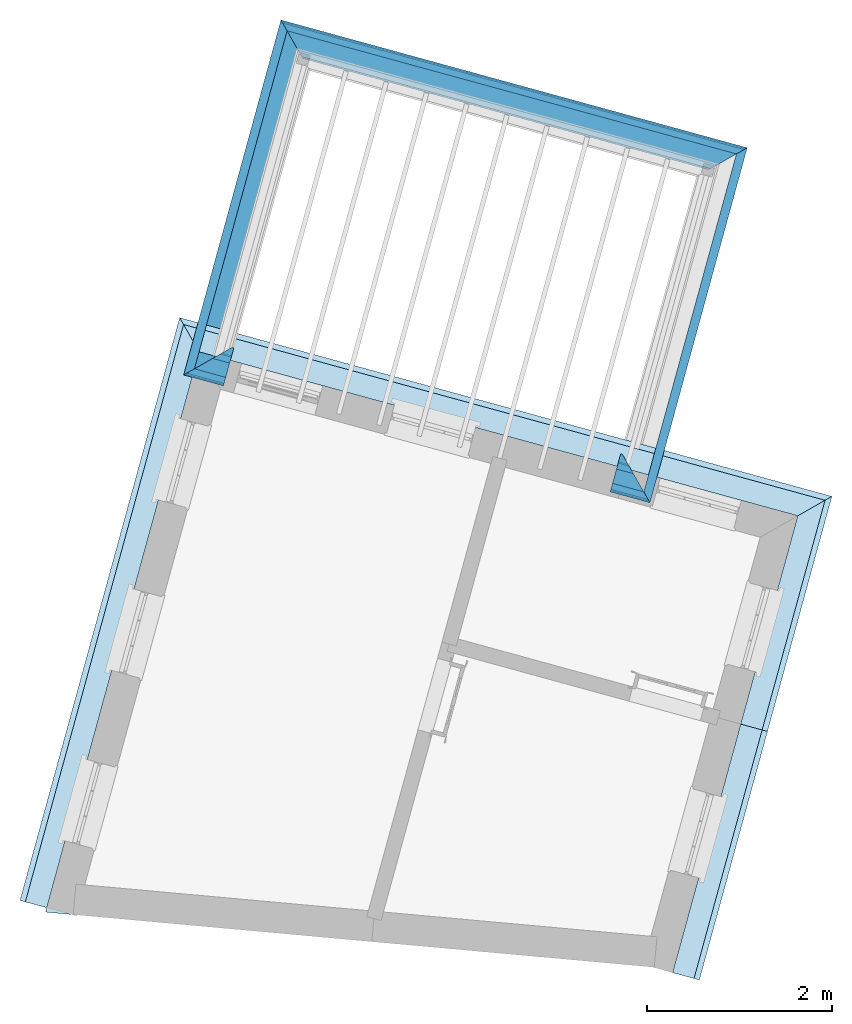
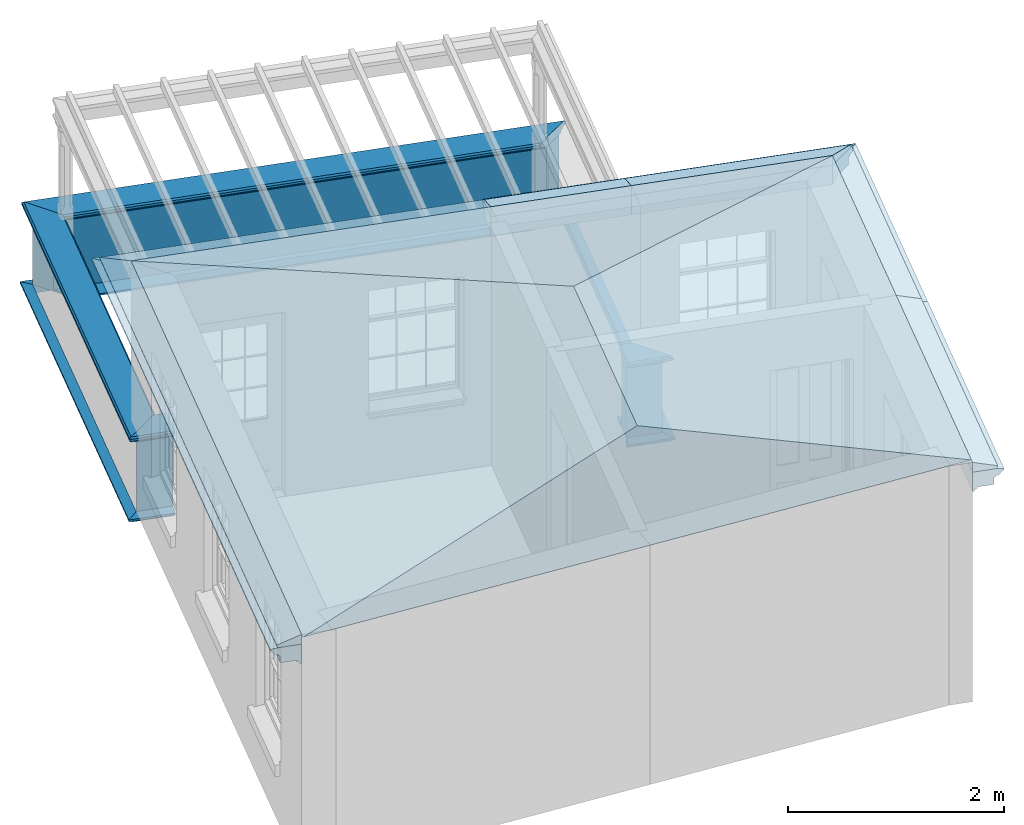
# One storey, part 4 of 4: 13 roofs, 12 walls.
"""IFC4 building model written with IfcOpenShell, lengths in metres."""

from ifc_helpers import new_model, si_unit, frame, origin, origin_with_axes, place, context, subcontext, project, spatial, polyline, outline, extrude, clip, halfspace, faceted_brep, material_profile, profile_set, profile_usage, type_object, element, save


model = new_model("IFC4")

# Units and contexts
model_context = context("Model", 3, world=origin_with_axes())
body_context = subcontext(model_context, "Body", "Model", "MODEL_VIEW")
ifc_project = project(units=[si_unit("PLANEANGLEUNIT", "RADIAN"), si_unit("MASSUNIT", "GRAM", prefix="KILO"), si_unit("FORCEUNIT", "NEWTON", prefix="KILO"), si_unit("LENGTHUNIT", "METRE"), si_unit("AREAUNIT", "SQUARE_METRE"), si_unit("VOLUMEUNIT", "CUBIC_METRE")], contexts=[model_context, model_context])

# Sites, building, storey
site_1_placement = place(None, origin_with_axes())
site_1 = spatial("IfcSite", under=ifc_project, at=site_1_placement, Name="Tamar")
site_2_placement = place(site_1_placement, origin_with_axes())
site_2 = spatial("IfcSite", under=site_1, at=site_2_placement, Name="Site plot-28", CompositionType="ELEMENT")
building_placement = place(None, origin_with_axes())
building = spatial("IfcBuilding", under=site_2, at=building_placement, Name="Building plot-28", CompositionType="ELEMENT")
storey_placement = place(None, frame((0.0, 0.0, 29.85), z_axis=(0.0, 0.0, 1.0), x_axis=(1.0, 0.0, 0.0)))
storey = spatial("IfcBuildingStorey", under=building, at=storey_placement, Name="plot-28 2", CompositionType="ELEMENT", Elevation=29.85)

# Walls
ifc_material_profile_1 = material_profile(None, outline(polyline([(0.25, 0.0), (0.25, 0.795), (0.09, 0.795), (0.09, 0.02), (-0.08, 0.02), (-0.08, 0.0), (0.25, 0.0)])))
ifc_profile_set_1 = profile_set([ifc_material_profile_1])
ifc_profile_usage_1 = profile_usage(ifc_profile_set_1)
wall_type_1 = type_object("IfcWallType", Name="parapet_0", PredefinedType="PARAPET", material=ifc_profile_set_1)
wall_1_placement = place(storey_placement, frame((266.014944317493, 264.03545285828, 0.0), z_axis=(-0.964452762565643, 0.264255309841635, 0.0), x_axis=(-0.264255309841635, -0.964452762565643, 0.0)))
element("IfcWall", 1, at=wall_1_placement, inside=storey, type_object=wall_type_1, material=ifc_profile_usage_1, Name="parapet_0", context=body_context, shape_type="Clipping", body=[
    clip(clip(extrude(outline(polyline([(0.25, 0.0), (0.25, 0.795), (0.09, 0.795), (0.09, 0.02), (-0.08, 0.02), (-0.08, 0.0), (0.25, 0.0)])), origin_with_axes(), (0.0, 0.0, 1.0), 2.10000000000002), halfspace(frame((0.0, 0.0, 1.10000000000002), z_axis=(5.71192738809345e-15, 0.0, -1.0), x_axis=(0.0, 1.0, 0.0)), True)), halfspace(frame((0.0, 0.0, 1.0), z_axis=(-0.707106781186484, 0.0, -0.707106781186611), x_axis=(0.0, 1.0, 0.0)), False)),
])
ifc_profile_usage_2 = profile_usage(ifc_profile_set_1)
wall_2_placement = place(storey_placement, frame((260.584933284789, 268.927528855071, 0.0), z_axis=(0.964452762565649, -0.264255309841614, 0.0), x_axis=(0.264255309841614, 0.964452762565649, 0.0)))
element("IfcWall", 2, at=wall_2_placement, inside=storey, type_object=wall_type_1, material=ifc_profile_usage_2, Name="parapet_0", context=body_context, shape_type="Clipping", body=[
    clip(clip(extrude(outline(polyline([(0.25, 0.0), (0.25, 0.795), (0.09, 0.795), (0.09, 0.02), (-0.08, 0.02), (-0.08, 0.0), (0.25, 0.0)])), origin_with_axes(), (0.0, 0.0, 1.0), 6.5297461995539), halfspace(frame((0.0, 0.0, 5.5297461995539), z_axis=(0.707106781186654, 0.0, -0.707106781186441), x_axis=(0.0, 1.0, 0.0)), True)), halfspace(frame((0.0, 0.0, 1.0), z_axis=(-0.707106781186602, 0.0, -0.707106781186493), x_axis=(0.0, 1.0, 0.0)), False)),
])
ifc_profile_usage_3 = profile_usage(ifc_profile_set_1)
wall_3_placement = place(storey_placement, frame((261.742663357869, 265.206036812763, 0.0), z_axis=(-0.964452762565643, 0.264255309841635, 0.0), x_axis=(-0.264255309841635, -0.964452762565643, 0.0)))
element("IfcWall", 3, at=wall_3_placement, inside=storey, type_object=wall_type_1, material=ifc_profile_usage_3, Name="parapet_0", context=body_context, shape_type="Clipping", body=[
    clip(clip(extrude(outline(polyline([(0.25, 0.0), (0.25, 0.795), (0.09, 0.795), (0.09, 0.02), (-0.08, 0.02), (-0.08, 0.0), (0.25, 0.0)])), origin_with_axes(), (0.0, 0.0, 1.0), 2.10000000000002), halfspace(frame((0.0, 0.0, 1.10000000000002), z_axis=(0.707106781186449, 0.0, -0.707106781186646), x_axis=(0.0, 1.0, 0.0)), True)), halfspace(frame((0.0, 0.0, 1.0), z_axis=(5.71192738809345e-15, 0.0, -1.0), x_axis=(0.0, 1.0, 0.0)), False)),
])
ifc_material_profile_2 = material_profile(None, outline(polyline([(0.265, 0.795), (0.268, 0.807), (0.274, 0.816), (0.283, 0.822), (0.295, 0.825), (0.295, 0.84), (0.305, 0.84), (0.317, 0.842), (0.326, 0.849), (0.333, 0.858), (0.335, 0.87), (0.333, 0.882), (0.326, 0.891), (0.317, 0.898), (0.305, 0.9), (0.035, 0.9), (0.023, 0.898), (0.014, 0.891), (0.007, 0.882), (0.005, 0.87), (0.007, 0.858), (0.014, 0.849), (0.023, 0.842), (0.035, 0.84), (0.045, 0.84), (0.045, 0.825), (0.057, 0.822), (0.066, 0.816), (0.072, 0.807), (0.075, 0.795), (0.265, 0.795)])))
ifc_profile_set_2 = profile_set([ifc_material_profile_2])
ifc_profile_usage_4 = profile_usage(ifc_profile_set_2)
wall_type_2 = type_object("IfcWallType", Name="parapet_1", PredefinedType="PARAPET", material=ifc_profile_set_2)
wall_4_placement = place(storey_placement, frame((266.014944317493, 264.03545285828, 0.0), z_axis=(-0.964452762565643, 0.264255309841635, 0.0), x_axis=(-0.264255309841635, -0.964452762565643, 0.0)))
element("IfcWall", 4, at=wall_4_placement, inside=storey, type_object=wall_type_2, material=ifc_profile_usage_4, Name="parapet_1", context=body_context, shape_type="Clipping", body=[
    clip(clip(extrude(outline(polyline([(0.265, 0.795), (0.268, 0.807), (0.274, 0.816), (0.283, 0.822), (0.295, 0.825), (0.295, 0.84), (0.305, 0.84), (0.317, 0.842), (0.326, 0.849), (0.333, 0.858), (0.335, 0.87), (0.333, 0.882), (0.326, 0.891), (0.317, 0.898), (0.305, 0.9), (0.035, 0.9), (0.023, 0.898), (0.014, 0.891), (0.007, 0.882), (0.005, 0.87), (0.007, 0.858), (0.014, 0.849), (0.023, 0.842), (0.035, 0.84), (0.045, 0.84), (0.045, 0.825), (0.057, 0.822), (0.066, 0.816), (0.072, 0.807), (0.075, 0.795), (0.265, 0.795)])), origin_with_axes(), (0.0, 0.0, 1.0), 2.10000000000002), halfspace(frame((0.0, 0.0, 1.10000000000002), z_axis=(5.71192738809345e-15, 0.0, -1.0), x_axis=(0.0, 1.0, 0.0)), True)), halfspace(frame((0.0, 0.0, 1.0), z_axis=(-0.707106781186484, 0.0, -0.707106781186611), x_axis=(0.0, 1.0, 0.0)), False)),
])
ifc_profile_usage_5 = profile_usage(ifc_profile_set_2)
wall_5_placement = place(storey_placement, frame((260.584933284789, 268.927528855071, 0.0), z_axis=(0.964452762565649, -0.264255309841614, 0.0), x_axis=(0.264255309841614, 0.964452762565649, 0.0)))
element("IfcWall", 5, at=wall_5_placement, inside=storey, type_object=wall_type_2, material=ifc_profile_usage_5, Name="parapet_1", context=body_context, shape_type="Clipping", body=[
    clip(clip(extrude(outline(polyline([(0.265, 0.795), (0.268, 0.807), (0.274, 0.816), (0.283, 0.822), (0.295, 0.825), (0.295, 0.84), (0.305, 0.84), (0.317, 0.842), (0.326, 0.849), (0.333, 0.858), (0.335, 0.87), (0.333, 0.882), (0.326, 0.891), (0.317, 0.898), (0.305, 0.9), (0.035, 0.9), (0.023, 0.898), (0.014, 0.891), (0.007, 0.882), (0.005, 0.87), (0.007, 0.858), (0.014, 0.849), (0.023, 0.842), (0.035, 0.84), (0.045, 0.84), (0.045, 0.825), (0.057, 0.822), (0.066, 0.816), (0.072, 0.807), (0.075, 0.795), (0.265, 0.795)])), origin_with_axes(), (0.0, 0.0, 1.0), 6.5297461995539), halfspace(frame((0.0, 0.0, 5.5297461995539), z_axis=(0.707106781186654, 0.0, -0.707106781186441), x_axis=(0.0, 1.0, 0.0)), True)), halfspace(frame((0.0, 0.0, 1.0), z_axis=(-0.707106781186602, 0.0, -0.707106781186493), x_axis=(0.0, 1.0, 0.0)), False)),
])
ifc_profile_usage_6 = profile_usage(ifc_profile_set_2)
wall_6_placement = place(storey_placement, frame((260.417510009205, 264.532264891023, 0.0), z_axis=(0.264255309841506, 0.964452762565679, 0.0), x_axis=(-0.964452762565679, 0.264255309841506, 0.0)))
element("IfcWall", 6, at=wall_6_placement, inside=storey, type_object=wall_type_2, material=ifc_profile_usage_6, Name="parapet_1", context=body_context, shape_type="Clipping", body=[
    clip(clip(extrude(outline(polyline([(0.265, 0.795), (0.268, 0.807), (0.274, 0.816), (0.283, 0.822), (0.295, 0.825), (0.295, 0.84), (0.305, 0.84), (0.317, 0.842), (0.326, 0.849), (0.333, 0.858), (0.335, 0.87), (0.333, 0.882), (0.326, 0.891), (0.317, 0.898), (0.305, 0.9), (0.035, 0.9), (0.023, 0.898), (0.014, 0.891), (0.007, 0.882), (0.005, 0.87), (0.007, 0.858), (0.014, 0.849), (0.023, 0.842), (0.035, 0.84), (0.045, 0.84), (0.045, 0.825), (0.057, 0.822), (0.066, 0.816), (0.072, 0.807), (0.075, 0.795), (0.265, 0.795)])), origin_with_axes(), (0.0, 0.0, 1.0), 5.28326696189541), halfspace(frame((0.0, 0.0, 4.28326696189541), z_axis=(0.707106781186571, 0.0, -0.707106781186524), x_axis=(0.0, 1.0, 0.0)), True)), halfspace(frame((0.0, 0.0, 1.0), z_axis=(-0.707106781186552, 0.0, -0.707106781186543), x_axis=(0.0, 1.0, 0.0)), False)),
])
ifc_profile_usage_7 = profile_usage(ifc_profile_set_2)
wall_7_placement = place(storey_placement, frame((261.742663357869, 265.206036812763, 0.0), z_axis=(-0.964452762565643, 0.264255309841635, 0.0), x_axis=(-0.264255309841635, -0.964452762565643, 0.0)))
element("IfcWall", 7, at=wall_7_placement, inside=storey, type_object=wall_type_2, material=ifc_profile_usage_7, Name="parapet_1", context=body_context, shape_type="Clipping", body=[
    clip(clip(extrude(outline(polyline([(0.265, 0.795), (0.268, 0.807), (0.274, 0.816), (0.283, 0.822), (0.295, 0.825), (0.295, 0.84), (0.305, 0.84), (0.317, 0.842), (0.326, 0.849), (0.333, 0.858), (0.335, 0.87), (0.333, 0.882), (0.326, 0.891), (0.317, 0.898), (0.305, 0.9), (0.035, 0.9), (0.023, 0.898), (0.014, 0.891), (0.007, 0.882), (0.005, 0.87), (0.007, 0.858), (0.014, 0.849), (0.023, 0.842), (0.035, 0.84), (0.045, 0.84), (0.045, 0.825), (0.057, 0.822), (0.066, 0.816), (0.072, 0.807), (0.075, 0.795), (0.265, 0.795)])), origin_with_axes(), (0.0, 0.0, 1.0), 2.10000000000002), halfspace(frame((0.0, 0.0, 1.10000000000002), z_axis=(0.707106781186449, 0.0, -0.707106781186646), x_axis=(0.0, 1.0, 0.0)), True)), halfspace(frame((0.0, 0.0, 1.0), z_axis=(5.71192738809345e-15, 0.0, -1.0), x_axis=(0.0, 1.0, 0.0)), False)),
])
ifc_material_profile_3 = material_profile(None, outline(polyline([(0.25, -0.1), (0.265, -0.1), (0.265, -0.085), (0.278, -0.084), (0.289, -0.081), (0.301, -0.074), (0.309, -0.065), (0.315, -0.055), (0.324, -0.044), (0.334, -0.038), (0.345, -0.035), (0.345, -0.015), (0.25, 0.0), (0.25, -0.1)])))
ifc_profile_set_3 = profile_set([ifc_material_profile_3])
ifc_profile_usage_8 = profile_usage(ifc_profile_set_3)
wall_type_3 = type_object("IfcWallType", Name="parapet_2", PredefinedType="PARAPET", material=ifc_profile_set_3)
wall_8_placement = place(storey_placement, frame((266.014944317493, 264.03545285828, 0.0), z_axis=(-0.964452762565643, 0.264255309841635, 0.0), x_axis=(-0.264255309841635, -0.964452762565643, 0.0)))
element("IfcWall", 8, at=wall_8_placement, inside=storey, type_object=wall_type_3, material=ifc_profile_usage_8, Name="parapet_2", context=body_context, shape_type="Clipping", body=[
    clip(clip(extrude(outline(polyline([(0.25, -0.1), (0.265, -0.1), (0.265, -0.085), (0.278, -0.084), (0.289, -0.081), (0.301, -0.074), (0.309, -0.065), (0.315, -0.055), (0.324, -0.044), (0.334, -0.038), (0.345, -0.035), (0.345, -0.015), (0.25, 0.0), (0.25, -0.1)])), origin_with_axes(), (0.0, 0.0, 1.0), 2.10000000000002), halfspace(frame((0.0, 0.0, 1.10000000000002), z_axis=(5.71192738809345e-15, 0.0, -1.0), x_axis=(0.0, 1.0, 0.0)), True)), halfspace(frame((0.0, 0.0, 1.0), z_axis=(-0.707106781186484, 0.0, -0.707106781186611), x_axis=(0.0, 1.0, 0.0)), False)),
])
ifc_profile_usage_9 = profile_usage(ifc_profile_set_3)
wall_9_placement = place(storey_placement, frame((266.182367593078, 268.430716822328, 0.0), z_axis=(-0.26425530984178, -0.964452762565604, 0.0), x_axis=(0.964452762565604, -0.26425530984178, 0.0)))
element("IfcWall", 9, at=wall_9_placement, inside=storey, type_object=wall_type_3, material=ifc_profile_usage_9, Name="parapet_2", context=body_context, shape_type="Clipping", body=[
    clip(clip(extrude(outline(polyline([(0.25, -0.1), (0.265, -0.1), (0.265, -0.085), (0.278, -0.084), (0.289, -0.081), (0.301, -0.074), (0.309, -0.065), (0.315, -0.055), (0.324, -0.044), (0.334, -0.038), (0.345, -0.035), (0.345, -0.015), (0.25, 0.0), (0.25, -0.1)])), origin_with_axes(), (0.0, 0.0, 1.0), 5.28326696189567), halfspace(frame((0.0, 0.0, 4.28326696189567), z_axis=(0.707106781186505, 0.0, -0.70710678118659), x_axis=(0.0, 1.0, 0.0)), True)), halfspace(frame((0.0, 0.0, 1.0), z_axis=(-0.707106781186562, 0.0, -0.707106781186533), x_axis=(0.0, 1.0, 0.0)), False)),
])
ifc_profile_usage_10 = profile_usage(ifc_profile_set_3)
wall_10_placement = place(storey_placement, frame((260.584933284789, 268.927528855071, 0.0), z_axis=(0.964452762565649, -0.264255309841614, 0.0), x_axis=(0.264255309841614, 0.964452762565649, 0.0)))
element("IfcWall", 10, at=wall_10_placement, inside=storey, type_object=wall_type_3, material=ifc_profile_usage_10, Name="parapet_2", context=body_context, shape_type="Clipping", body=[
    clip(clip(extrude(outline(polyline([(0.25, -0.1), (0.265, -0.1), (0.265, -0.085), (0.278, -0.084), (0.289, -0.081), (0.301, -0.074), (0.309, -0.065), (0.315, -0.055), (0.324, -0.044), (0.334, -0.038), (0.345, -0.035), (0.345, -0.015), (0.25, 0.0), (0.25, -0.1)])), origin_with_axes(), (0.0, 0.0, 1.0), 6.5297461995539), halfspace(frame((0.0, 0.0, 5.5297461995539), z_axis=(0.707106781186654, 0.0, -0.707106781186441), x_axis=(0.0, 1.0, 0.0)), True)), halfspace(frame((0.0, 0.0, 1.0), z_axis=(-0.707106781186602, 0.0, -0.707106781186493), x_axis=(0.0, 1.0, 0.0)), False)),
])
ifc_profile_usage_11 = profile_usage(ifc_profile_set_3)
wall_11_placement = place(storey_placement, frame((260.417510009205, 264.532264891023, 0.0), z_axis=(0.264255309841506, 0.964452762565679, 0.0), x_axis=(-0.964452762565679, 0.264255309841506, 0.0)))
element("IfcWall", 11, at=wall_11_placement, inside=storey, type_object=wall_type_3, material=ifc_profile_usage_11, Name="parapet_2", context=body_context, shape_type="Clipping", body=[
    clip(clip(extrude(outline(polyline([(0.25, -0.1), (0.265, -0.1), (0.265, -0.085), (0.278, -0.084), (0.289, -0.081), (0.301, -0.074), (0.309, -0.065), (0.315, -0.055), (0.324, -0.044), (0.334, -0.038), (0.345, -0.035), (0.345, -0.015), (0.25, 0.0), (0.25, -0.1)])), origin_with_axes(), (0.0, 0.0, 1.0), 5.28326696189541), halfspace(frame((0.0, 0.0, 4.28326696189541), z_axis=(0.707106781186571, 0.0, -0.707106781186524), x_axis=(0.0, 1.0, 0.0)), True)), halfspace(frame((0.0, 0.0, 1.0), z_axis=(-0.707106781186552, 0.0, -0.707106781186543), x_axis=(0.0, 1.0, 0.0)), False)),
])
ifc_profile_usage_12 = profile_usage(ifc_profile_set_3)
wall_12_placement = place(storey_placement, frame((261.742663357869, 265.206036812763, 0.0), z_axis=(-0.964452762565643, 0.264255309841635, 0.0), x_axis=(-0.264255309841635, -0.964452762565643, 0.0)))
element("IfcWall", 12, at=wall_12_placement, inside=storey, type_object=wall_type_3, material=ifc_profile_usage_12, Name="parapet_2", context=body_context, shape_type="Clipping", body=[
    clip(clip(extrude(outline(polyline([(0.25, -0.1), (0.265, -0.1), (0.265, -0.085), (0.278, -0.084), (0.289, -0.081), (0.301, -0.074), (0.309, -0.065), (0.315, -0.055), (0.324, -0.044), (0.334, -0.038), (0.345, -0.035), (0.345, -0.015), (0.25, 0.0), (0.25, -0.1)])), origin_with_axes(), (0.0, 0.0, 1.0), 2.10000000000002), halfspace(frame((0.0, 0.0, 1.10000000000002), z_axis=(0.707106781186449, 0.0, -0.707106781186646), x_axis=(0.0, 1.0, 0.0)), True)), halfspace(frame((0.0, 0.0, 1.0), z_axis=(5.71192738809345e-15, 0.0, -1.0), x_axis=(0.0, 1.0, 0.0)), False)),
])

# Roofs
ifc_material_profile_4 = material_profile(None, outline(polyline([(0.25, -0.11), (0.25, -0.33), (0.265, -0.33), (0.268, -0.318), (0.274, -0.309), (0.283, -0.303), (0.295, -0.3), (0.295, -0.285), (0.455, -0.285), (0.455, -0.205), (0.47, -0.205), (0.47, -0.19), (0.483, -0.189), (0.494, -0.186), (0.506, -0.179), (0.514, -0.17), (0.52, -0.16), (0.529, -0.149), (0.539, -0.143), (0.55, -0.14), (0.55, -0.12), (0.48, -0.11), (0.25, -0.11)])))
ifc_profile_set_4 = profile_set([ifc_material_profile_4])
ifc_profile_usage_13 = profile_usage(ifc_profile_set_4)
roof_type_1 = type_object("IfcRoofType", Name="eaves_0", PredefinedType="FREEFORM", material=ifc_profile_set_4)
roof_1_placement = place(storey_placement, frame((266.294431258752, 262.516514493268, 2.7), z_axis=(-0.264255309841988, -0.964452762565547, 0.0), x_axis=(0.964452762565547, -0.264255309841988, 0.0)))
element("IfcRoof", 13, at=roof_1_placement, inside=storey, type_object=roof_type_1, material=ifc_profile_usage_13, Name="eaves_0", context=body_context, shape_type="Clipping", body=[
    clip(clip(extrude(outline(polyline([(0.25, -0.11), (0.25, -0.33), (0.265, -0.33), (0.268, -0.318), (0.274, -0.309), (0.283, -0.303), (0.295, -0.3), (0.295, -0.285), (0.455, -0.285), (0.455, -0.205), (0.47, -0.205), (0.47, -0.19), (0.483, -0.189), (0.494, -0.186), (0.506, -0.179), (0.514, -0.17), (0.52, -0.16), (0.529, -0.149), (0.539, -0.143), (0.55, -0.14), (0.55, -0.12), (0.48, -0.11), (0.25, -0.11)])), origin_with_axes(), (0.0, 0.0, 1.0), 4.78220610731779), halfspace(frame((0.0, 0.0, 3.78220610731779), z_axis=(-2.05963378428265e-15, 0.0, -1.0), x_axis=(0.0, 1.0, 0.0)), True)), halfspace(frame((0.0, 0.0, 1.0), z_axis=(-2.05963378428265e-15, 0.0, -1.0), x_axis=(0.0, 1.0, 0.0)), False)),
])
ifc_profile_usage_14 = profile_usage(ifc_profile_set_4)
roof_2_placement = place(storey_placement, frame((266.844369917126, 264.523625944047, 2.7), z_axis=(-0.26425530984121, -0.96445276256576, 0.0), x_axis=(0.96445276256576, -0.26425530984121, 0.0)))
element("IfcRoof", 14, at=roof_2_placement, inside=storey, type_object=roof_type_1, material=ifc_profile_usage_14, Name="eaves_0", context=body_context, shape_type="Clipping", body=[
    clip(clip(extrude(outline(polyline([(0.25, -0.11), (0.25, -0.33), (0.265, -0.33), (0.268, -0.318), (0.274, -0.309), (0.283, -0.303), (0.295, -0.3), (0.295, -0.285), (0.455, -0.285), (0.455, -0.205), (0.47, -0.205), (0.47, -0.19), (0.483, -0.189), (0.494, -0.186), (0.506, -0.179), (0.514, -0.17), (0.52, -0.16), (0.529, -0.149), (0.539, -0.143), (0.55, -0.14), (0.55, -0.12), (0.48, -0.11), (0.25, -0.11)])), origin_with_axes(), (0.0, 0.0, 1.0), 4.08108839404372), halfspace(frame((0.0, 0.0, 3.08108839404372), z_axis=(8.05072505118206e-13, 0.0, -1.0), x_axis=(0.0, 1.0, 0.0)), True)), halfspace(frame((0.0, 0.0, 1.0), z_axis=(-0.707106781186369, 0.0, -0.707106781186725), x_axis=(0.0, 1.0, 0.0)), False)),
])
ifc_profile_usage_15 = profile_usage(ifc_profile_set_4)
roof_3_placement = place(storey_placement, frame((264.00411964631, 264.264983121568, 2.7), z_axis=(0.964452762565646, -0.264255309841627, 0.0), x_axis=(0.264255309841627, 0.964452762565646, 0.0)))
element("IfcRoof", 15, at=roof_3_placement, inside=storey, type_object=roof_type_1, material=ifc_profile_usage_15, Name="eaves_0", context=body_context, shape_type="Clipping", body=[
    clip(clip(extrude(outline(polyline([(0.25, -0.11), (0.25, -0.33), (0.265, -0.33), (0.268, -0.318), (0.274, -0.309), (0.283, -0.303), (0.295, -0.3), (0.295, -0.285), (0.455, -0.285), (0.455, -0.205), (0.47, -0.205), (0.47, -0.19), (0.483, -0.189), (0.494, -0.186), (0.506, -0.179), (0.514, -0.17), (0.52, -0.16), (0.529, -0.149), (0.539, -0.143), (0.55, -0.14), (0.55, -0.12), (0.48, -0.11), (0.25, -0.11)])), origin_with_axes(), (0.0, 0.0, 1.0), 3.67093948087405), halfspace(frame((0.0, 0.0, 2.67093948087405), z_axis=(0.70710678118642, 0.0, -0.707106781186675), x_axis=(0.0, 1.0, 0.0)), True)), halfspace(frame((0.0, 0.0, 1.0), z_axis=(1.37055331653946e-14, 0.0, -1.0), x_axis=(0.0, 1.0, 0.0)), False)),
])
ifc_profile_usage_16 = profile_usage(ifc_profile_set_4)
roof_4_placement = place(storey_placement, frame((262.708829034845, 264.619886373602, 2.7), z_axis=(0.964452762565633, -0.264255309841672, 0.0), x_axis=(0.264255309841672, 0.964452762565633, 0.0)))
element("IfcRoof", 16, at=roof_4_placement, inside=storey, type_object=roof_type_1, material=ifc_profile_usage_16, Name="eaves_0", context=body_context, shape_type="Clipping", body=[
    clip(clip(extrude(outline(polyline([(0.25, -0.11), (0.25, -0.33), (0.265, -0.33), (0.268, -0.318), (0.274, -0.309), (0.283, -0.303), (0.295, -0.3), (0.295, -0.285), (0.455, -0.285), (0.455, -0.205), (0.47, -0.205), (0.47, -0.19), (0.483, -0.189), (0.494, -0.186), (0.506, -0.179), (0.514, -0.17), (0.52, -0.16), (0.529, -0.149), (0.539, -0.143), (0.55, -0.14), (0.55, -0.12), (0.48, -0.11), (0.25, -0.11)])), origin_with_axes(), (0.0, 0.0, 1.0), 3.34303167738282), halfspace(frame((0.0, 0.0, 2.34303167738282), z_axis=(-3.24797446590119e-14, 0.0, -1.0), x_axis=(0.0, 1.0, 0.0)), True)), halfspace(frame((0.0, 0.0, 1.0), z_axis=(-3.24797446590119e-14, 0.0, -1.0), x_axis=(0.0, 1.0, 0.0)), False)),
])
ifc_profile_usage_17 = profile_usage(ifc_profile_set_4)
roof_5_placement = place(storey_placement, frame((259.63539341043, 265.461992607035, 2.7), z_axis=(0.964452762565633, -0.264255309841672, 0.0), x_axis=(0.264255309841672, 0.964452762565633, 0.0)))
element("IfcRoof", 17, at=roof_5_placement, inside=storey, type_object=roof_type_1, material=ifc_profile_usage_17, Name="eaves_0", context=body_context, shape_type="Clipping", body=[
    clip(clip(extrude(outline(polyline([(0.25, -0.11), (0.25, -0.33), (0.265, -0.33), (0.268, -0.318), (0.274, -0.309), (0.283, -0.303), (0.295, -0.3), (0.295, -0.285), (0.455, -0.285), (0.455, -0.205), (0.47, -0.205), (0.47, -0.19), (0.483, -0.189), (0.494, -0.186), (0.506, -0.179), (0.514, -0.17), (0.52, -0.16), (0.529, -0.149), (0.539, -0.143), (0.55, -0.14), (0.55, -0.12), (0.48, -0.11), (0.25, -0.11)])), origin_with_axes(), (0.0, 0.0, 1.0), 5.18671452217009), halfspace(frame((0.0, 0.0, 4.18671452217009), z_axis=(-3.2923833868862e-14, 0.0, -1.0), x_axis=(0.0, 1.0, 0.0)), True)), halfspace(frame((0.0, 0.0, 1.0), z_axis=(-0.707106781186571, 0.0, -0.707106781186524), x_axis=(0.0, 1.0, 0.0)), False)),
])
ifc_profile_usage_18 = profile_usage(ifc_profile_set_4)
roof_6_placement = place(storey_placement, frame((258.757247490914, 258.472803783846, 2.7), z_axis=(0.264255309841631, 0.964452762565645, 0.0), x_axis=(-0.964452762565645, 0.264255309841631, 0.0)))
element("IfcRoof", 18, at=roof_6_placement, inside=storey, type_object=roof_type_1, material=ifc_profile_usage_18, Name="eaves_0", context=body_context, shape_type="Clipping", body=[
    clip(clip(extrude(outline(polyline([(0.25, -0.11), (0.25, -0.33), (0.265, -0.33), (0.268, -0.318), (0.274, -0.309), (0.283, -0.303), (0.295, -0.3), (0.295, -0.285), (0.455, -0.285), (0.455, -0.205), (0.47, -0.205), (0.47, -0.19), (0.483, -0.189), (0.494, -0.186), (0.506, -0.179), (0.514, -0.17), (0.52, -0.16), (0.529, -0.149), (0.539, -0.143), (0.55, -0.14), (0.55, -0.12), (0.48, -0.11), (0.25, -0.11)])), origin_with_axes(), (0.0, 0.0, 1.0), 7.9727971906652), halfspace(frame((0.0, 0.0, 6.9727971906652), z_axis=(0.707106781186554, 0.0, -0.707106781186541), x_axis=(0.0, 1.0, 0.0)), True)), halfspace(frame((0.0, 0.0, 1.0), z_axis=(9.70873027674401e-15, 0.0, -1.0), x_axis=(0.0, 1.0, 0.0)), False)),
])
ifc_material_profile_5 = material_profile(None, outline(polyline([(0.25, -0.11), (0.48, -0.11), (0.49, -0.08), (0.25, 0.0), (0.25, -0.11)])))
ifc_profile_set_5 = profile_set([ifc_material_profile_5])
ifc_profile_usage_19 = profile_usage(ifc_profile_set_5)
roof_type_2 = type_object("IfcRoofType", Name="eaves_1", PredefinedType="FREEFORM", material=ifc_profile_set_5)
roof_7_placement = place(storey_placement, frame((266.294431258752, 262.516514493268, 2.7), z_axis=(-0.264255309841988, -0.964452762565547, 0.0), x_axis=(0.964452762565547, -0.264255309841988, 0.0)))
element("IfcRoof", 19, at=roof_7_placement, inside=storey, type_object=roof_type_2, material=ifc_profile_usage_19, Name="eaves_1", context=body_context, shape_type="Clipping", body=[
    clip(clip(extrude(outline(polyline([(0.25, -0.11), (0.48, -0.11), (0.49, -0.08), (0.25, 0.0), (0.25, -0.11)])), origin_with_axes(), (0.0, 0.0, 1.0), 4.78220610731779), halfspace(frame((0.0, 0.0, 3.78220610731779), z_axis=(-2.05963378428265e-15, 0.0, -1.0), x_axis=(0.0, 1.0, 0.0)), True)), halfspace(frame((0.0, 0.0, 1.0), z_axis=(-2.05963378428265e-15, 0.0, -1.0), x_axis=(0.0, 1.0, 0.0)), False)),
])
ifc_profile_usage_20 = profile_usage(ifc_profile_set_5)
roof_8_placement = place(storey_placement, frame((266.844369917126, 264.523625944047, 2.7), z_axis=(-0.26425530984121, -0.96445276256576, 0.0), x_axis=(0.96445276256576, -0.26425530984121, 0.0)))
element("IfcRoof", 20, at=roof_8_placement, inside=storey, type_object=roof_type_2, material=ifc_profile_usage_20, Name="eaves_1", context=body_context, shape_type="Clipping", body=[
    clip(clip(extrude(outline(polyline([(0.25, -0.11), (0.48, -0.11), (0.49, -0.08), (0.25, 0.0), (0.25, -0.11)])), origin_with_axes(), (0.0, 0.0, 1.0), 4.08108839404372), halfspace(frame((0.0, 0.0, 3.08108839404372), z_axis=(8.05072505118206e-13, 0.0, -1.0), x_axis=(0.0, 1.0, 0.0)), True)), halfspace(frame((0.0, 0.0, 1.0), z_axis=(-0.707106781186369, 0.0, -0.707106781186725), x_axis=(0.0, 1.0, 0.0)), False)),
])
ifc_profile_usage_21 = profile_usage(ifc_profile_set_5)
roof_9_placement = place(storey_placement, frame((264.00411964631, 264.264983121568, 2.7), z_axis=(0.964452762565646, -0.264255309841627, 0.0), x_axis=(0.264255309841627, 0.964452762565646, 0.0)))
element("IfcRoof", 21, at=roof_9_placement, inside=storey, type_object=roof_type_2, material=ifc_profile_usage_21, Name="eaves_1", context=body_context, shape_type="Clipping", body=[
    clip(clip(extrude(outline(polyline([(0.25, -0.11), (0.48, -0.11), (0.49, -0.08), (0.25, 0.0), (0.25, -0.11)])), origin_with_axes(), (0.0, 0.0, 1.0), 3.67093948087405), halfspace(frame((0.0, 0.0, 2.67093948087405), z_axis=(0.70710678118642, 0.0, -0.707106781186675), x_axis=(0.0, 1.0, 0.0)), True)), halfspace(frame((0.0, 0.0, 1.0), z_axis=(1.37055331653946e-14, 0.0, -1.0), x_axis=(0.0, 1.0, 0.0)), False)),
])
ifc_profile_usage_22 = profile_usage(ifc_profile_set_5)
roof_10_placement = place(storey_placement, frame((262.708829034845, 264.619886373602, 2.7), z_axis=(0.964452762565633, -0.264255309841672, 0.0), x_axis=(0.264255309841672, 0.964452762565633, 0.0)))
element("IfcRoof", 22, at=roof_10_placement, inside=storey, type_object=roof_type_2, material=ifc_profile_usage_22, Name="eaves_1", context=body_context, shape_type="Clipping", body=[
    clip(clip(extrude(outline(polyline([(0.25, -0.11), (0.48, -0.11), (0.49, -0.08), (0.25, 0.0), (0.25, -0.11)])), origin_with_axes(), (0.0, 0.0, 1.0), 3.34303167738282), halfspace(frame((0.0, 0.0, 2.34303167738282), z_axis=(-3.24797446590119e-14, 0.0, -1.0), x_axis=(0.0, 1.0, 0.0)), True)), halfspace(frame((0.0, 0.0, 1.0), z_axis=(-3.24797446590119e-14, 0.0, -1.0), x_axis=(0.0, 1.0, 0.0)), False)),
])
ifc_profile_usage_23 = profile_usage(ifc_profile_set_5)
roof_11_placement = place(storey_placement, frame((259.63539341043, 265.461992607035, 2.7), z_axis=(0.964452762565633, -0.264255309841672, 0.0), x_axis=(0.264255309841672, 0.964452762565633, 0.0)))
element("IfcRoof", 23, at=roof_11_placement, inside=storey, type_object=roof_type_2, material=ifc_profile_usage_23, Name="eaves_1", context=body_context, shape_type="Clipping", body=[
    clip(clip(extrude(outline(polyline([(0.25, -0.11), (0.48, -0.11), (0.49, -0.08), (0.25, 0.0), (0.25, -0.11)])), origin_with_axes(), (0.0, 0.0, 1.0), 5.18671452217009), halfspace(frame((0.0, 0.0, 4.18671452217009), z_axis=(-3.2923833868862e-14, 0.0, -1.0), x_axis=(0.0, 1.0, 0.0)), True)), halfspace(frame((0.0, 0.0, 1.0), z_axis=(-0.707106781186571, 0.0, -0.707106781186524), x_axis=(0.0, 1.0, 0.0)), False)),
])
ifc_profile_usage_24 = profile_usage(ifc_profile_set_5)
roof_12_placement = place(storey_placement, frame((258.757247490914, 258.472803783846, 2.7), z_axis=(0.264255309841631, 0.964452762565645, 0.0), x_axis=(-0.964452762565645, 0.264255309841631, 0.0)))
element("IfcRoof", 24, at=roof_12_placement, inside=storey, type_object=roof_type_2, material=ifc_profile_usage_24, Name="eaves_1", context=body_context, shape_type="Clipping", body=[
    clip(clip(extrude(outline(polyline([(0.25, -0.11), (0.48, -0.11), (0.49, -0.08), (0.25, 0.0), (0.25, -0.11)])), origin_with_axes(), (0.0, 0.0, 1.0), 7.9727971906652), halfspace(frame((0.0, 0.0, 6.9727971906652), z_axis=(0.707106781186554, 0.0, -0.707106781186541), x_axis=(0.0, 1.0, 0.0)), True)), halfspace(frame((0.0, 0.0, 1.0), z_axis=(9.70873027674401e-15, 0.0, -1.0), x_axis=(0.0, 1.0, 0.0)), False)),
])
roof_13_placement = place(building_placement, origin())
element("IfcRoof", 25, at=roof_13_placement, inside=storey, Name="Roof", PredefinedType="FREEFORM", context=body_context, shape_type="Brep", body=[
    faceted_brep([(260.424797, 265.504914, 32.55), (258.767519, 259.456348, 32.55), (262.157184, 259.149177, 33.937757), (262.770698, 261.388321, 33.937757), (265.546848, 258.842005, 32.55), (266.887292, 263.734223, 32.55)], [[[0, 1, 2, 3]], [[4, 5, 3, 2]], [[5, 4, 1, 0]], [[5, 0, 3]], [[1, 4, 2]]]),
])

save(model, "model.ifc")
